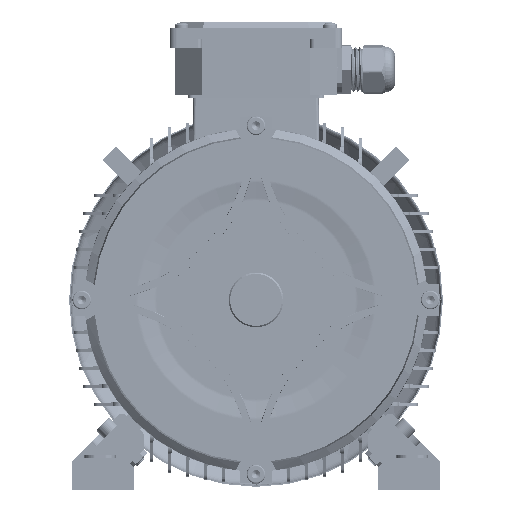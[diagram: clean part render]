
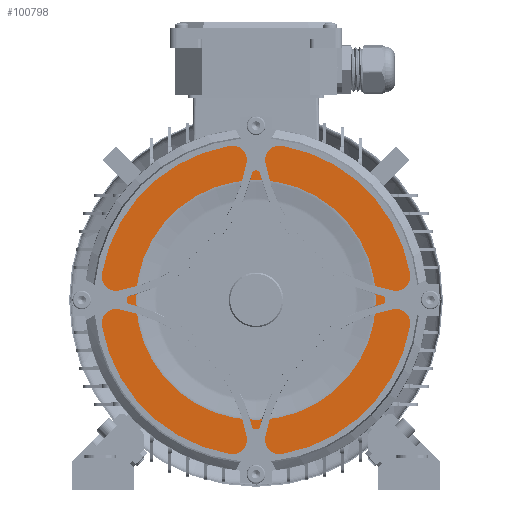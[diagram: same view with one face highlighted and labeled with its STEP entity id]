
A CAD part, front view. The second image highlights one B-rep face of the part: STEP entity #100798.
In plain terms, the highlighted planar face has unit normal (0, -1, 0).
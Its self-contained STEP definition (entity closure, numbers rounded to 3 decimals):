
#423 = DIRECTION ( 'NONE',  ( 0., -1., 0. ) ) ;
#955 = DIRECTION ( 'NONE',  ( 0., 0., -1. ) ) ;
#7337 = DIRECTION ( 'NONE',  ( 0., 0., -1. ) ) ;
#10410 = FACE_OUTER_BOUND ( 'NONE', #127444, .T. ) ;
#12392 = DIRECTION ( 'NONE',  ( 0., 0., -1. ) ) ;
#19979 = EDGE_CURVE ( 'NONE', #62282, #120588, #82494, .T. ) ;
#30508 = EDGE_LOOP ( 'NONE', ( #100544, #109838 ) ) ;
#35122 = VERTEX_POINT ( 'NONE', #68412 ) ;
#39699 = CARTESIAN_POINT ( 'NONE',  ( 0., 4., 0. ) ) ;
#40574 = FACE_BOUND ( 'NONE', #30508, .T. ) ;
#42532 = CARTESIAN_POINT ( 'NONE',  ( 83.295, 4., 0. ) ) ;
#47050 = ORIENTED_EDGE ( 'NONE', *, *, #49225, .T. ) ;
#49225 = EDGE_CURVE ( 'NONE', #35122, #80487, #54359, .T. ) ;
#49837 = AXIS2_PLACEMENT_3D ( 'NONE', #39699, #110658, #49912 ) ;
#49912 = DIRECTION ( 'NONE',  ( 0., 0., -1. ) ) ;
#52759 = PLANE ( 'NONE',  #104807 ) ;
#54359 = CIRCLE ( 'NONE', #49837, 108.5 ) ;
#55464 = EDGE_CURVE ( 'NONE', #80487, #35122, #121635, .T. ) ;
#61179 = CARTESIAN_POINT ( 'NONE',  ( 0., 4., 0. ) ) ;
#61711 = DIRECTION ( 'NONE',  ( 0., -1., 0. ) ) ;
#62282 = VERTEX_POINT ( 'NONE', #113023 ) ;
#68094 = DIRECTION ( 'NONE',  ( 0., -1., 0. ) ) ;
#68412 = CARTESIAN_POINT ( 'NONE',  ( 0., 4., -108.5 ) ) ;
#71329 = DIRECTION ( 'NONE',  ( 0., 0., -1. ) ) ;
#73105 = DIRECTION ( 'NONE',  ( 0., -1., 0. ) ) ;
#75004 = CIRCLE ( 'NONE', #109475, 83.295 ) ;
#79468 = AXIS2_PLACEMENT_3D ( 'NONE', #122491, #61711, #955 ) ;
#80487 = VERTEX_POINT ( 'NONE', #82116 ) ;
#82116 = CARTESIAN_POINT ( 'NONE',  ( 0., 4., 108.5 ) ) ;
#82416 = AXIS2_PLACEMENT_3D ( 'NONE', #128902, #68094, #7337 ) ;
#82494 = CIRCLE ( 'NONE', #79468, 83.295 ) ;
#88753 = CARTESIAN_POINT ( 'NONE',  ( 0., 4., 83.295 ) ) ;
#100544 = ORIENTED_EDGE ( 'NONE', *, *, #19979, .F. ) ;
#100798 = ADVANCED_FACE ( 'NONE', ( #10410, #40574 ), #52759, .T. ) ;
#104807 = AXIS2_PLACEMENT_3D ( 'NONE', #42532, #73105, #12392 ) ;
#109475 = AXIS2_PLACEMENT_3D ( 'NONE', #61179, #423, #71329 ) ;
#109838 = ORIENTED_EDGE ( 'NONE', *, *, #116116, .F. ) ;
#110658 = DIRECTION ( 'NONE',  ( 0., -1., 0. ) ) ;
#113023 = CARTESIAN_POINT ( 'NONE',  ( 0., 4., -83.295 ) ) ;
#116116 = EDGE_CURVE ( 'NONE', #120588, #62282, #75004, .T. ) ;
#120150 = ORIENTED_EDGE ( 'NONE', *, *, #55464, .T. ) ;
#120588 = VERTEX_POINT ( 'NONE', #88753 ) ;
#121635 = CIRCLE ( 'NONE', #82416, 108.5 ) ;
#122491 = CARTESIAN_POINT ( 'NONE',  ( 0., 4., 0. ) ) ;
#127444 = EDGE_LOOP ( 'NONE', ( #47050, #120150 ) ) ;
#128902 = CARTESIAN_POINT ( 'NONE',  ( 0., 4., 0. ) ) ;
